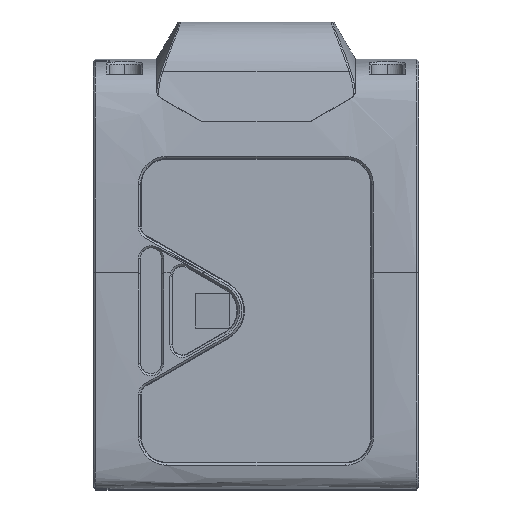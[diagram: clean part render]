
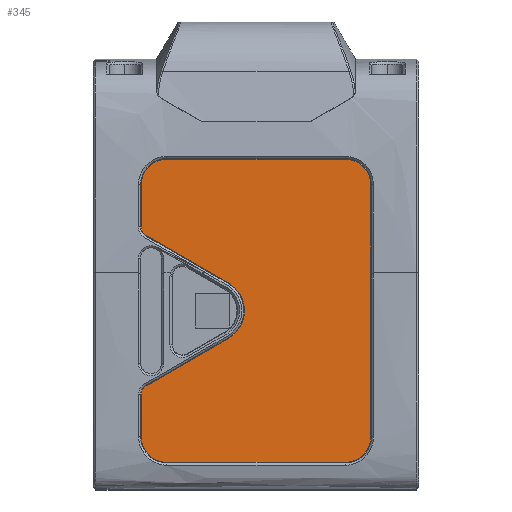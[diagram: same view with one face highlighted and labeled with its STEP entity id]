
A CAD part, top view. The second image highlights one B-rep face of the part: STEP entity #345.
In plain terms, the highlighted planar face has unit normal (0, 0, 1).
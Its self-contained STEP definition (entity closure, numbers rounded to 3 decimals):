
#345=ADVANCED_FACE('',(#683),#7251,.T.);
#683=FACE_OUTER_BOUND('',#1044,.T.);
#1044=EDGE_LOOP('',(#2037,#2038,#2039,#2040,#2041,#2042,#2043,#2044,#2045,
#2046,#2047,#2048,#2049,#2050));
#2037=ORIENTED_EDGE('',*,*,#3810,.T.);
#2038=ORIENTED_EDGE('',*,*,#3811,.T.);
#2039=ORIENTED_EDGE('',*,*,#3812,.T.);
#2040=ORIENTED_EDGE('',*,*,#3813,.T.);
#2041=ORIENTED_EDGE('',*,*,#3808,.T.);
#2042=ORIENTED_EDGE('',*,*,#3814,.T.);
#2043=ORIENTED_EDGE('',*,*,#3815,.T.);
#2044=ORIENTED_EDGE('',*,*,#3816,.T.);
#2045=ORIENTED_EDGE('',*,*,#3804,.F.);
#2046=ORIENTED_EDGE('',*,*,#3801,.T.);
#2047=ORIENTED_EDGE('',*,*,#3798,.F.);
#2048=ORIENTED_EDGE('',*,*,#3817,.T.);
#2049=ORIENTED_EDGE('',*,*,#3818,.T.);
#2050=ORIENTED_EDGE('',*,*,#3819,.T.);
#3798=EDGE_CURVE('',#6740,#6741,#5615,.T.);
#3801=EDGE_CURVE('',#6743,#6741,#4746,.T.);
#3804=EDGE_CURVE('',#6743,#6745,#5617,.T.);
#3808=EDGE_CURVE('',#6749,#6748,#5619,.T.);
#3810=EDGE_CURVE('',#6750,#6751,#5620,.T.);
#3811=EDGE_CURVE('',#6751,#6752,#4751,.T.);
#3812=EDGE_CURVE('',#6752,#6753,#5621,.T.);
#3813=EDGE_CURVE('',#6753,#6749,#4752,.T.);
#3814=EDGE_CURVE('',#6748,#6754,#4753,.T.);
#3815=EDGE_CURVE('',#6754,#6755,#5622,.T.);
#3816=EDGE_CURVE('',#6755,#6745,#4754,.T.);
#3817=EDGE_CURVE('',#6740,#6756,#4755,.T.);
#3818=EDGE_CURVE('',#6756,#6757,#5623,.T.);
#3819=EDGE_CURVE('',#6757,#6750,#4756,.T.);
#4746=B_SPLINE_CURVE_WITH_KNOTS('',1,(#14610,#14611),.UNSPECIFIED.,.F.,
 .F.,(2,2),(-17.,0.),.UNSPECIFIED.);
#4751=B_SPLINE_CURVE_WITH_KNOTS('',1,(#14635,#14636),.UNSPECIFIED.,.F.,
 .F.,(2,2),(0.,4.006),.UNSPECIFIED.);
#4752=B_SPLINE_CURVE_WITH_KNOTS('',1,(#14640,#14641),.UNSPECIFIED.,.F.,
 .F.,(2,2),(0.,9.06),.UNSPECIFIED.);
#4753=B_SPLINE_CURVE_WITH_KNOTS('',1,(#14642,#14643),.UNSPECIFIED.,.F.,
 .F.,(2,2),(0.,9.06),.UNSPECIFIED.);
#4754=B_SPLINE_CURVE_WITH_KNOTS('',1,(#14647,#14648),.UNSPECIFIED.,.F.,
 .F.,(2,2),(0.,4.006),.UNSPECIFIED.);
#4755=B_SPLINE_CURVE_WITH_KNOTS('',1,(#14649,#14650),.UNSPECIFIED.,.F.,
 .F.,(2,2),(0.,24.),.UNSPECIFIED.);
#4756=B_SPLINE_CURVE_WITH_KNOTS('',1,(#14654,#14655),.UNSPECIFIED.,.F.,
 .F.,(2,2),(0.,17.),.UNSPECIFIED.);
#5615=TRIMMED_CURVE($,#6109,(#14604),(#14605),.T.,.CARTESIAN.);
#5617=TRIMMED_CURVE($,#6111,(#14618),(#14619),.T.,.CARTESIAN.);
#5619=TRIMMED_CURVE($,#6113,(#14628),(#14629),.T.,.CARTESIAN.);
#5620=TRIMMED_CURVE($,#6114,(#14633),(#14634),.T.,.CARTESIAN.);
#5621=TRIMMED_CURVE($,#6115,(#14638),(#14639),.T.,.CARTESIAN.);
#5622=TRIMMED_CURVE($,#6116,(#14645),(#14646),.T.,.CARTESIAN.);
#5623=TRIMMED_CURVE($,#6117,(#14652),(#14653),.T.,.CARTESIAN.);
#6109=CIRCLE('',#7887,2.45);
#6111=CIRCLE('',#7889,2.45);
#6113=CIRCLE('',#7891,3.05);
#6114=CIRCLE('',#7892,2.45);
#6115=CIRCLE('',#7893,0.95);
#6116=CIRCLE('',#7894,0.95);
#6117=CIRCLE('',#7895,2.45);
#6740=VERTEX_POINT('',#14580);
#6741=VERTEX_POINT('',#14581);
#6743=VERTEX_POINT('',#14583);
#6745=VERTEX_POINT('',#14585);
#6748=VERTEX_POINT('',#14588);
#6749=VERTEX_POINT('',#14589);
#6750=VERTEX_POINT('',#14590);
#6751=VERTEX_POINT('',#14591);
#6752=VERTEX_POINT('',#14592);
#6753=VERTEX_POINT('',#14593);
#6754=VERTEX_POINT('',#14594);
#6755=VERTEX_POINT('',#14595);
#6756=VERTEX_POINT('',#14596);
#6757=VERTEX_POINT('',#14597);
#7251=PLANE('',#7885);
#7885=AXIS2_PLACEMENT_3D('',#14577,#8910,$);
#7887=AXIS2_PLACEMENT_3D($,#14603,#8913,#8914);
#7889=AXIS2_PLACEMENT_3D($,#14617,#8917,#8918);
#7891=AXIS2_PLACEMENT_3D($,#14627,#8921,#8922);
#7892=AXIS2_PLACEMENT_3D($,#14632,#8923,#8924);
#7893=AXIS2_PLACEMENT_3D($,#14637,#8925,#8926);
#7894=AXIS2_PLACEMENT_3D($,#14644,#8927,#8928);
#7895=AXIS2_PLACEMENT_3D($,#14651,#8929,#8930);
#8910=DIRECTION('',(0.,0.,1.));
#8913=DIRECTION('',(0.,0.,-1.));
#8914=DIRECTION('',(1.,0.,0.));
#8917=DIRECTION('',(0.,0.,-1.));
#8918=DIRECTION('',(0.,-1.,0.));
#8921=DIRECTION('',(0.,0.,-1.));
#8922=DIRECTION('',(0.5,0.866,0.));
#8923=DIRECTION('',(0.,0.,1.));
#8924=DIRECTION('',(0.,1.,0.));
#8925=DIRECTION('',(0.,0.,1.));
#8926=DIRECTION('',(-1.,0.,0.));
#8927=DIRECTION('',(0.,0.,1.));
#8928=DIRECTION('',(-0.5,0.866,0.));
#8929=DIRECTION('',(0.,0.,1.));
#8930=DIRECTION('',(1.,0.,0.));
#14577=CARTESIAN_POINT('',(-13.14,-20.84,25.5));
#14580=CARTESIAN_POINT('',(10.95,-15.5,25.5));
#14581=CARTESIAN_POINT('',(8.5,-17.95,25.5));
#14583=CARTESIAN_POINT('',(-8.5,-17.95,25.5));
#14585=CARTESIAN_POINT('',(-10.95,-15.5,25.5));
#14588=CARTESIAN_POINT('',(-2.629,-6.141,25.5));
#14589=CARTESIAN_POINT('',(-2.629,-0.859,25.5));
#14590=CARTESIAN_POINT('',(-8.5,10.95,25.5));
#14591=CARTESIAN_POINT('',(-10.95,8.5,25.5));
#14592=CARTESIAN_POINT('',(-10.95,4.494,25.5));
#14593=CARTESIAN_POINT('',(-10.475,3.671,25.5));
#14594=CARTESIAN_POINT('',(-10.475,-10.671,25.5));
#14595=CARTESIAN_POINT('',(-10.95,-11.494,25.5));
#14596=CARTESIAN_POINT('',(10.95,8.5,25.5));
#14597=CARTESIAN_POINT('',(8.5,10.95,25.5));
#14603=CARTESIAN_POINT('',(8.5,-15.5,25.5));
#14604=CARTESIAN_POINT('',(10.95,-15.5,25.5));
#14605=CARTESIAN_POINT('',(8.5,-17.95,25.5));
#14610=CARTESIAN_POINT('',(-8.5,-17.95,25.5));
#14611=CARTESIAN_POINT('',(8.5,-17.95,25.5));
#14617=CARTESIAN_POINT('',(-8.5,-15.5,25.5));
#14618=CARTESIAN_POINT('',(-8.5,-17.95,25.5));
#14619=CARTESIAN_POINT('',(-10.95,-15.5,25.5));
#14627=CARTESIAN_POINT('',(-4.154,-3.5,25.5));
#14628=CARTESIAN_POINT('',(-2.629,-0.859,25.5));
#14629=CARTESIAN_POINT('',(-2.629,-6.141,25.5));
#14632=CARTESIAN_POINT('',(-8.5,8.5,25.5));
#14633=CARTESIAN_POINT('',(-8.5,10.95,25.5));
#14634=CARTESIAN_POINT('',(-10.95,8.5,25.5));
#14635=CARTESIAN_POINT('',(-10.95,8.5,25.5));
#14636=CARTESIAN_POINT('',(-10.95,4.494,25.5));
#14637=CARTESIAN_POINT('',(-10.,4.494,25.5));
#14638=CARTESIAN_POINT('',(-10.95,4.494,25.5));
#14639=CARTESIAN_POINT('',(-10.475,3.671,25.5));
#14640=CARTESIAN_POINT('',(-10.475,3.671,25.5));
#14641=CARTESIAN_POINT('',(-2.629,-0.859,25.5));
#14642=CARTESIAN_POINT('',(-2.629,-6.141,25.5));
#14643=CARTESIAN_POINT('',(-10.475,-10.671,25.5));
#14644=CARTESIAN_POINT('',(-10.,-11.494,25.5));
#14645=CARTESIAN_POINT('',(-10.475,-10.671,25.5));
#14646=CARTESIAN_POINT('',(-10.95,-11.494,25.5));
#14647=CARTESIAN_POINT('',(-10.95,-11.494,25.5));
#14648=CARTESIAN_POINT('',(-10.95,-15.5,25.5));
#14649=CARTESIAN_POINT('',(10.95,-15.5,25.5));
#14650=CARTESIAN_POINT('',(10.95,8.5,25.5));
#14651=CARTESIAN_POINT('',(8.5,8.5,25.5));
#14652=CARTESIAN_POINT('',(10.95,8.5,25.5));
#14653=CARTESIAN_POINT('',(8.5,10.95,25.5));
#14654=CARTESIAN_POINT('',(8.5,10.95,25.5));
#14655=CARTESIAN_POINT('',(-8.5,10.95,25.5));
